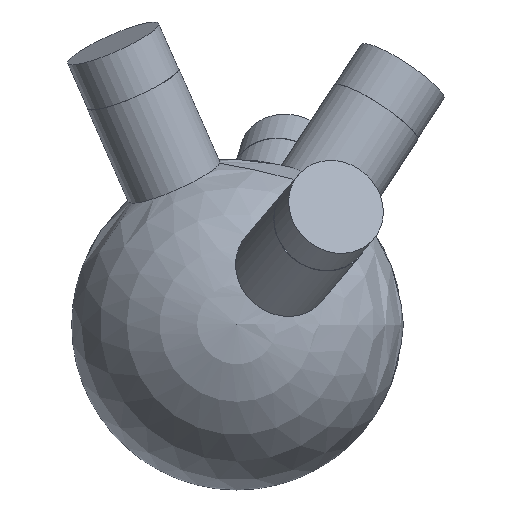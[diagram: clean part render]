
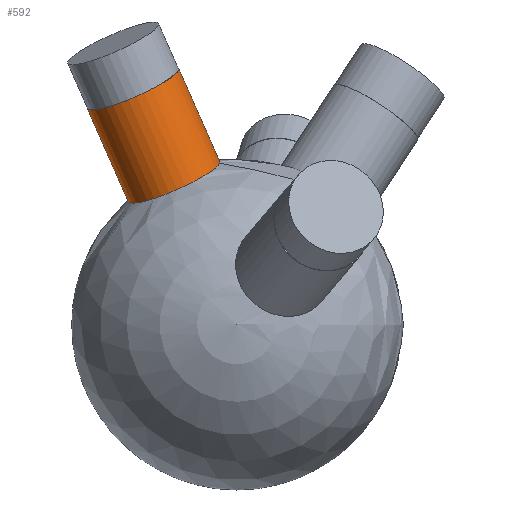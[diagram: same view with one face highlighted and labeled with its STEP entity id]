
A CAD part, top view. The second image highlights one B-rep face of the part: STEP entity #592.
In plain terms, the highlighted cylindrical face has radius 6 mm (diameter 12 mm), a full revolution.
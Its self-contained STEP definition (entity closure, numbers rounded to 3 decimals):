
#35 = SPHERICAL_SURFACE('',#36,20.);
#36 = AXIS2_PLACEMENT_3D('',#37,#38,#39);
#37 = CARTESIAN_POINT('',(0.,0.,0.));
#38 = DIRECTION('',(0.,0.,1.));
#39 = DIRECTION('',(1.,0.,-0.));
#344 = EDGE_CURVE('',#345,#345,#347,.T.);
#345 = VERTEX_POINT('',#346);
#346 = CARTESIAN_POINT('',(-2.079,19.611,
    3.331));
#347 = SURFACE_CURVE('',#348,(#353,#415),.PCURVE_S1.);
#348 = CIRCLE('',#349,6.);
#349 = AXIS2_PLACEMENT_3D('',#350,#351,#352);
#350 = CARTESIAN_POINT('',(-7.571,17.193,
    3.331));
#351 = DIRECTION('',(-0.397,0.901,0.175));
#352 = DIRECTION('',(-0.915,-0.403,0.)
  );
#353 = PCURVE('',#35,#354);
#354 = DEFINITIONAL_REPRESENTATION('',(#355),#414);
#355 = B_SPLINE_CURVE_WITH_KNOTS('',8,(#356,#357,#358,#359,#360,#361,
    #362,#363,#364,#365,#366,#367,#368,#369,#370,#371,#372,#373,#374,
    #375,#376,#377,#378,#379,#380,#381,#382,#383,#384,#385,#386,#387,
    #388,#389,#390,#391,#392,#393,#394,#395,#396,#397,#398,#399,#400,
    #401,#402,#403,#404,#405,#406,#407,#408,#409,#410,#411,#412,#413),
  .UNSPECIFIED.,.F.,.F.,(9,7,7,7,7,7,7,7,9),(3.142,
    3.927,4.614,5.216,6.268,
    7.057,7.649,8.537,9.425),
  .UNSPECIFIED.);
#356 = CARTESIAN_POINT('',(1.676,0.167));
#357 = CARTESIAN_POINT('',(1.678,0.138));
#358 = CARTESIAN_POINT('',(1.683,0.109));
#359 = CARTESIAN_POINT('',(1.691,0.08));
#360 = CARTESIAN_POINT('',(1.701,0.052));
#361 = CARTESIAN_POINT('',(1.715,0.026));
#362 = CARTESIAN_POINT('',(1.732,0.001));
#363 = CARTESIAN_POINT('',(1.75,-0.022));
#364 = CARTESIAN_POINT('',(1.79,-0.06));
#365 = CARTESIAN_POINT('',(1.81,-0.077));
#366 = CARTESIAN_POINT('',(1.832,-0.091));
#367 = CARTESIAN_POINT('',(1.855,-0.103));
#368 = CARTESIAN_POINT('',(1.879,-0.113));
#369 = CARTESIAN_POINT('',(1.904,-0.12));
#370 = CARTESIAN_POINT('',(1.93,-0.125));
#371 = CARTESIAN_POINT('',(1.979,-0.13));
#372 = CARTESIAN_POINT('',(2.001,-0.13));
#373 = CARTESIAN_POINT('',(2.024,-0.129));
#374 = CARTESIAN_POINT('',(2.047,-0.125));
#375 = CARTESIAN_POINT('',(2.069,-0.12));
#376 = CARTESIAN_POINT('',(2.091,-0.112));
#377 = CARTESIAN_POINT('',(2.111,-0.103));
#378 = CARTESIAN_POINT('',(2.166,-0.074));
#379 = CARTESIAN_POINT('',(2.198,-0.05));
#380 = CARTESIAN_POINT('',(2.226,-0.021));
#381 = CARTESIAN_POINT('',(2.25,0.011));
#382 = CARTESIAN_POINT('',(2.269,0.047));
#383 = CARTESIAN_POINT('',(2.283,0.084));
#384 = CARTESIAN_POINT('',(2.292,0.123));
#385 = CARTESIAN_POINT('',(2.296,0.192));
#386 = CARTESIAN_POINT('',(2.295,0.222));
#387 = CARTESIAN_POINT('',(2.291,0.252));
#388 = CARTESIAN_POINT('',(2.283,0.281));
#389 = CARTESIAN_POINT('',(2.272,0.309));
#390 = CARTESIAN_POINT('',(2.257,0.335));
#391 = CARTESIAN_POINT('',(2.24,0.36));
#392 = CARTESIAN_POINT('',(2.203,0.399));
#393 = CARTESIAN_POINT('',(2.186,0.415));
#394 = CARTESIAN_POINT('',(2.167,0.429));
#395 = CARTESIAN_POINT('',(2.147,0.441));
#396 = CARTESIAN_POINT('',(2.125,0.452));
#397 = CARTESIAN_POINT('',(2.102,0.461));
#398 = CARTESIAN_POINT('',(2.079,0.468));
#399 = CARTESIAN_POINT('',(2.018,0.481));
#400 = CARTESIAN_POINT('',(1.98,0.484));
#401 = CARTESIAN_POINT('',(1.942,0.482));
#402 = CARTESIAN_POINT('',(1.904,0.475));
#403 = CARTESIAN_POINT('',(1.868,0.464));
#404 = CARTESIAN_POINT('',(1.835,0.449));
#405 = CARTESIAN_POINT('',(1.805,0.429));
#406 = CARTESIAN_POINT('',(1.751,0.384));
#407 = CARTESIAN_POINT('',(1.728,0.359));
#408 = CARTESIAN_POINT('',(1.709,0.33));
#409 = CARTESIAN_POINT('',(1.694,0.299));
#410 = CARTESIAN_POINT('',(1.683,0.267));
#411 = CARTESIAN_POINT('',(1.677,0.234));
#412 = CARTESIAN_POINT('',(1.675,0.201));
#413 = CARTESIAN_POINT('',(1.676,0.167));
#414 = ( GEOMETRIC_REPRESENTATION_CONTEXT(2) 
PARAMETRIC_REPRESENTATION_CONTEXT() REPRESENTATION_CONTEXT('2D SPACE',''
  ) );
#415 = PCURVE('',#416,#421);
#416 = CYLINDRICAL_SURFACE('',#417,6.);
#417 = AXIS2_PLACEMENT_3D('',#418,#419,#420);
#418 = CARTESIAN_POINT('',(0.,0.,0.));
#419 = DIRECTION('',(-0.397,0.901,0.175));
#420 = DIRECTION('',(0.915,0.403,0.));
#421 = DEFINITIONAL_REPRESENTATION('',(#422),#426);
#422 = LINE('',#423,#424);
#423 = CARTESIAN_POINT('',(-3.142,19.079));
#424 = VECTOR('',#425,1.);
#425 = DIRECTION('',(1.,0.));
#426 = ( GEOMETRIC_REPRESENTATION_CONTEXT(2) 
PARAMETRIC_REPRESENTATION_CONTEXT() REPRESENTATION_CONTEXT('2D SPACE',''
  ) );
#592 = ADVANCED_FACE('',(#593),#416,.T.);
#593 = FACE_BOUND('',#594,.T.);
#594 = EDGE_LOOP('',(#595,#618,#645,#646));
#595 = ORIENTED_EDGE('',*,*,#596,.T.);
#596 = EDGE_CURVE('',#345,#597,#599,.T.);
#597 = VERTEX_POINT('',#598);
#598 = CARTESIAN_POINT('',(-7.003,30.792,5.497
    ));
#599 = SEAM_CURVE('',#600,(#604,#611),.PCURVE_S1.);
#600 = LINE('',#601,#602);
#601 = CARTESIAN_POINT('',(5.491,2.418,
    0.));
#602 = VECTOR('',#603,1.);
#603 = DIRECTION('',(-0.397,0.901,0.175));
#604 = PCURVE('',#416,#605);
#605 = DEFINITIONAL_REPRESENTATION('',(#606),#610);
#606 = LINE('',#607,#608);
#607 = CARTESIAN_POINT('',(6.283,-0.));
#608 = VECTOR('',#609,1.);
#609 = DIRECTION('',(0.,1.));
#610 = ( GEOMETRIC_REPRESENTATION_CONTEXT(2) 
PARAMETRIC_REPRESENTATION_CONTEXT() REPRESENTATION_CONTEXT('2D SPACE',''
  ) );
#611 = PCURVE('',#416,#612);
#612 = DEFINITIONAL_REPRESENTATION('',(#613),#617);
#613 = LINE('',#614,#615);
#614 = CARTESIAN_POINT('',(0.,-0.));
#615 = VECTOR('',#616,1.);
#616 = DIRECTION('',(0.,1.));
#617 = ( GEOMETRIC_REPRESENTATION_CONTEXT(2) 
PARAMETRIC_REPRESENTATION_CONTEXT() REPRESENTATION_CONTEXT('2D SPACE',''
  ) );
#618 = ORIENTED_EDGE('',*,*,#619,.F.);
#619 = EDGE_CURVE('',#597,#597,#620,.T.);
#620 = SURFACE_CURVE('',#621,(#626,#633),.PCURVE_S1.);
#621 = CIRCLE('',#622,6.);
#622 = AXIS2_PLACEMENT_3D('',#623,#624,#625);
#623 = CARTESIAN_POINT('',(-12.494,28.374,
    5.497));
#624 = DIRECTION('',(-0.397,0.901,0.175));
#625 = DIRECTION('',(0.915,0.403,0.));
#626 = PCURVE('',#416,#627);
#627 = DEFINITIONAL_REPRESENTATION('',(#628),#632);
#628 = LINE('',#629,#630);
#629 = CARTESIAN_POINT('',(0.,31.486));
#630 = VECTOR('',#631,1.);
#631 = DIRECTION('',(1.,0.));
#632 = ( GEOMETRIC_REPRESENTATION_CONTEXT(2) 
PARAMETRIC_REPRESENTATION_CONTEXT() REPRESENTATION_CONTEXT('2D SPACE',''
  ) );
#633 = PCURVE('',#634,#639);
#634 = PLANE('',#635);
#635 = AXIS2_PLACEMENT_3D('',#636,#637,#638);
#636 = CARTESIAN_POINT('',(-12.494,28.374,
    5.497));
#637 = DIRECTION('',(-0.397,0.901,0.175));
#638 = DIRECTION('',(0.915,0.403,0.));
#639 = DEFINITIONAL_REPRESENTATION('',(#640),#644);
#640 = CIRCLE('',#641,6.);
#641 = AXIS2_PLACEMENT_2D('',#642,#643);
#642 = CARTESIAN_POINT('',(0.,0.));
#643 = DIRECTION('',(1.,0.));
#644 = ( GEOMETRIC_REPRESENTATION_CONTEXT(2) 
PARAMETRIC_REPRESENTATION_CONTEXT() REPRESENTATION_CONTEXT('2D SPACE',''
  ) );
#645 = ORIENTED_EDGE('',*,*,#596,.F.);
#646 = ORIENTED_EDGE('',*,*,#344,.T.);
